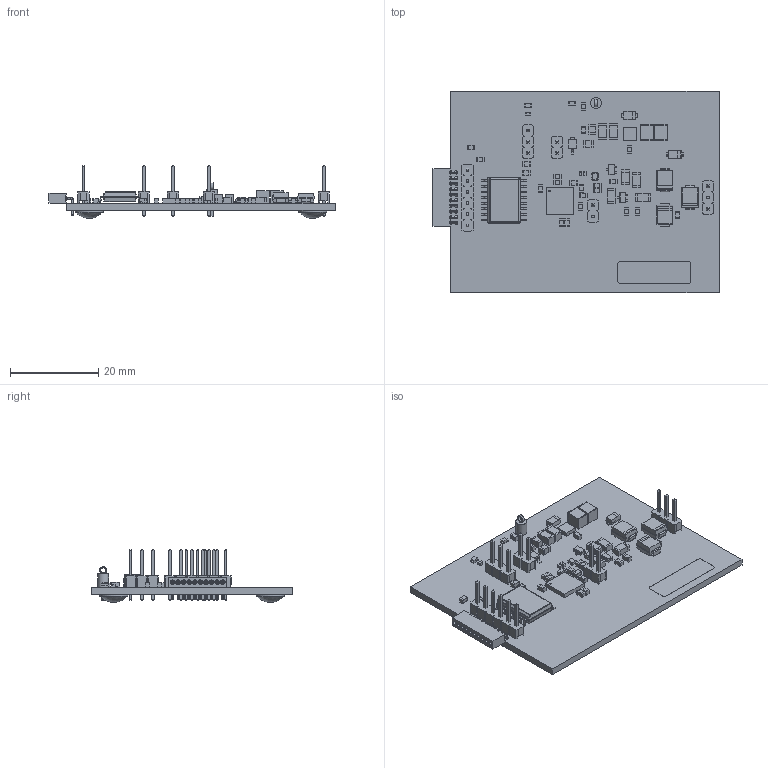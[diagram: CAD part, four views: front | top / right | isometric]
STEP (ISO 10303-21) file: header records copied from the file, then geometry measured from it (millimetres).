
FILE_DESCRIPTION(('Open CASCADE Model'),'2;1');
FILE_NAME('Open CASCADE Shape Model','2016-03-15T11:55:32',('Author'),( 'Open CASCADE'),'Open CASCADE STEP processor 6.8','Open CASCADE 6.8' ,'Unknown');
FILE_SCHEMA(('AUTOMOTIVE_DESIGN { 1 0 10303 214 1 1 1 1 }'));
Length unit declared in the file: millimetre
Products named in the file (160): PCB; Board; U3; -1684652416; Extruded; -1684649560; LBL1; -1684649424; C18; -1684651192; -1684651056; C16; -1684650512; -1684650648; C17; C19; D5; -1684652552; -1684652960; -1684652824; J4; 61300311121; 6130xx11121_PIN; R4; -1684650376; -1684650240; R11; U2; DRL0005A; C10; C9; C7; C8; C15; C11; C12; C13; J2; mill-max-P851-93-010-20-001000; mill-max-P851-93-010-20-001000_4890_4890-1-00-53-00-00-03-4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
Assembly tree (289 placements, depth 5):
  PCB
    Board
    U3
      -1684652416
        Extruded
      -1684649560
        Extruded
    LBL1
      -1684649424
        Extruded
    C18
      -1684651192  x2
        Extruded
      -1684651056
        Extruded
    C16
      -1684650512  x2
        Extruded
      -1684650648
        Extruded
    C17
      -1684650512  x2
        Extruded
      -1684650648
        Extruded
    C19
      -1684651192  x2
        Extruded
      -1684651056
        Extruded
    D5
      -1684652552
        Extruded
      -1684652960  x2
        Extruded
      -1684652824
        Extruded
    J4
      61300311121
        61300311121
        6130xx11121_PIN  x3
    R4
      -1684650376  x2
        Extruded
      -1684650240
        Extruded
    R11
      -1684651192  x2
        Extruded
      -1684651056
        Extruded
    U2
      DRL0005A
    C10
      -1684650512  x2
        Extruded
      -1684650648
        Extruded
    C9
      -1684650512  x2
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Bounding box: 65 x 45.72 x 12.01 mm (x, y, z)
Volume: 5471 mm3; surface area: 9714.6 mm2
Topology: 199 solids, 199 shells, 2671 faces, 6348 edges, 4048 vertices
Faces by surface type: plane 2054, cylinder 365, cone 170, torus 44, sphere 38
Full cylindrical faces by diameter (mm): 0.73 x10, 1.016 x1, 1.15 x16, 2.5 x1, 6.35 x4
Entity records: 91109 total; most frequent: CARTESIAN_POINT 29595, DIRECTION 10394, LINE 6962, VECTOR 6962, ORIENTED_EDGE 5500, PCURVE 5500, DEFINITIONAL_REPRESENTATION 5500, EDGE_CURVE 2750
